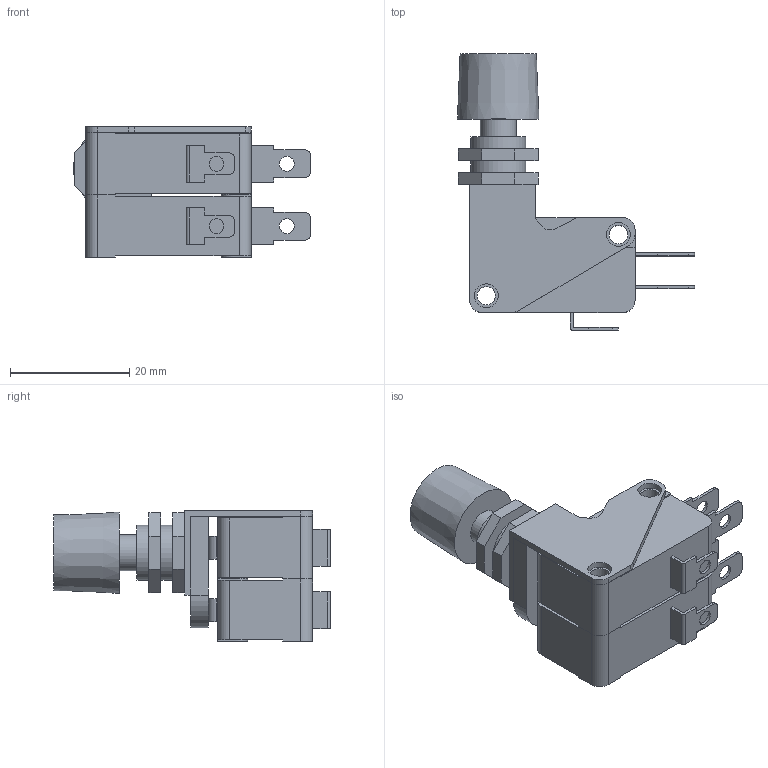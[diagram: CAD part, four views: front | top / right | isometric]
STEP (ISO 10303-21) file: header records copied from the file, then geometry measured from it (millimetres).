
FILE_DESCRIPTION(/* description */ (''),/* implementation_level */ '2;1');
FILE_NAME(/* name */ 'E:\Inventor 2016\제품 외형도\(완료) 리미트 스위치\소형 마이크로 스위치 (V형)\YS P9D-15C.stp',/* time_stamp */ '2019-04-09T10:04:12+09:00',/* author */ ('Kim'),/* organization */ (''),/* preprocessor_version */ 'ST-DEVELOPER v16.1',/* originating_system */ 'Autodesk Inventor 2016',/* authorisation */ '');
FILE_SCHEMA (('AUTOMOTIVE_DESIGN { 1 0 10303 214 3 1 1 }'));
Length unit declared in the file: millimetre
Products named in the file (1): YS P9D-15C
Bounding box: 39.85 x 46.5 x 22 mm (x, y, z)
Volume: 12151 mm3; surface area: 7718.2 mm2
Topology: 5 solids, 5 shells, 220 faces, 578 edges, 384 vertices
Faces by surface type: plane 166, cylinder 53, cone 1
Full cylindrical faces by diameter (mm): 2.5 x6, 3.1 x4, 4 x2, 6 x1, 9.3 x2
Entity records: 6893 total; most frequent: CARTESIAN_POINT 1167, ORIENTED_EDGE 1124, DIRECTION 1112, EDGE_CURVE 562, LINE 454, VECTOR 454, VERTEX_POINT 384, AXIS2_PLACEMENT_3D 329
